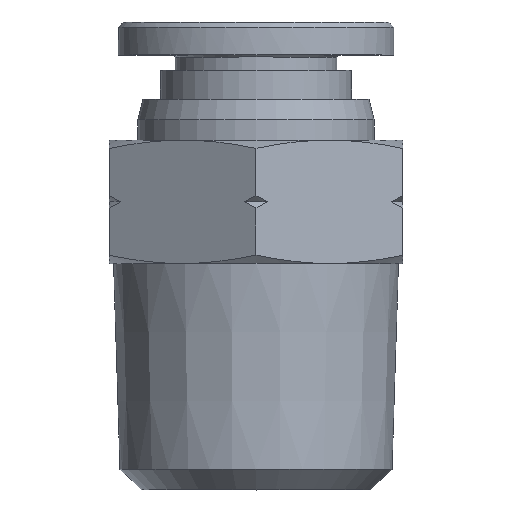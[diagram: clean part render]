
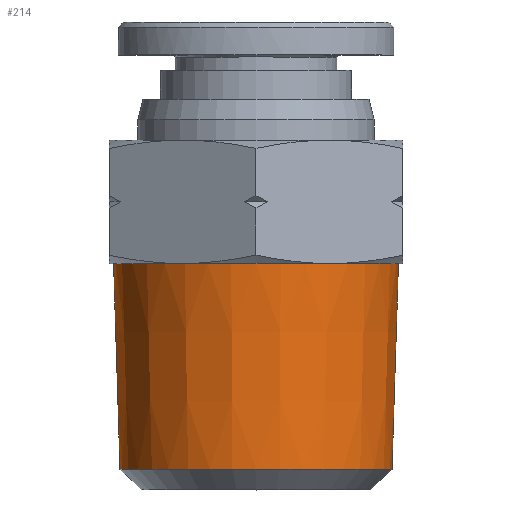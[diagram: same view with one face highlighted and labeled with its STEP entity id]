
A CAD part, top view. The second image highlights one B-rep face of the part: STEP entity #214.
In plain terms, the highlighted conical face has half-angle 1.791 degrees and reference radius 6.758 mm.
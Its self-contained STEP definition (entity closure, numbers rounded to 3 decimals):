
#180=CARTESIAN_POINT('',(6.617,1.,0.));
#181=VERTEX_POINT('',#180);
#182=CARTESIAN_POINT('',(0.0,1.,0.));
#183=DIRECTION('',(0.0,-1.0,0.0));
#184=DIRECTION('',(-1.0,0.0,0.0));
#185=AXIS2_PLACEMENT_3D('',#182,#183,#184);
#186=CIRCLE('',#185,6.617);
#187=EDGE_CURVE('',#181,#181,#186,.T.);
#195=CARTESIAN_POINT('',(0.0,5.5,0.0));
#196=DIRECTION('',(0.0,1.0,0.0));
#197=DIRECTION('',(1.0,0.0,0.0));
#198=AXIS2_PLACEMENT_3D('',#195,#196,#197);
#199=CONICAL_SURFACE('',#198,6.758,1.791);
#200=CARTESIAN_POINT('',(6.93,11.0,0.0));
#201=VERTEX_POINT('',#200);
#202=CARTESIAN_POINT('',(0.0,11.0,0.0));
#203=DIRECTION('',(0.0,-1.0,0.0));
#204=DIRECTION('',(1.0,0.0,0.0));
#205=AXIS2_PLACEMENT_3D('',#202,#203,#204);
#206=CIRCLE('',#205,6.93);
#207=EDGE_CURVE('',#201,#201,#206,.T.);
#208=ORIENTED_EDGE('',*,*,#207,.T.);
#209=EDGE_LOOP('',(#208));
#210=FACE_OUTER_BOUND('',#209,.T.);
#211=ORIENTED_EDGE('',*,*,#187,.F.);
#212=EDGE_LOOP('',(#211));
#213=FACE_BOUND('',#212,.T.);
#214=ADVANCED_FACE('',(#210,#213),#199,.T.);
